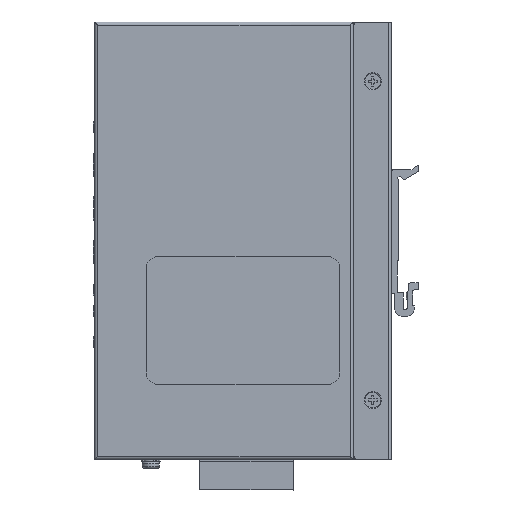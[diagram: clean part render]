
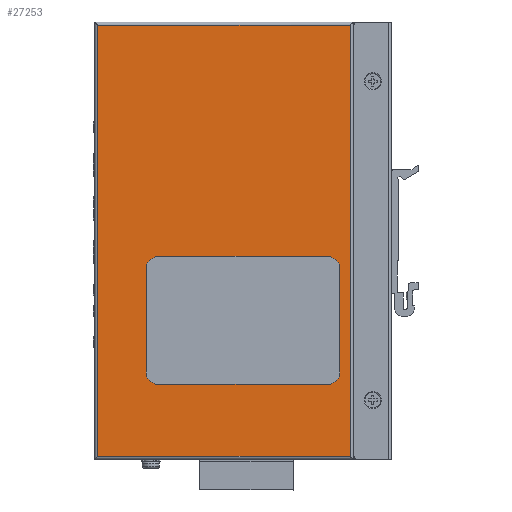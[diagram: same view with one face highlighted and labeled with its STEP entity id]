
A CAD part, front view. The second image highlights one B-rep face of the part: STEP entity #27253.
In plain terms, the highlighted planar face has unit normal (0, -1, 0).
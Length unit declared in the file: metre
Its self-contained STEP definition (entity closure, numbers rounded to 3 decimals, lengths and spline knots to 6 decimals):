
#1753=CIRCLE('',#30143,0.004);
#1754=CIRCLE('',#30144,0.004);
#1755=CIRCLE('',#30145,0.004);
#1756=CIRCLE('',#30146,0.004);
#8730=ORIENTED_EDGE('',*,*,#12598,.T.);
#8731=ORIENTED_EDGE('',*,*,#12603,.T.);
#8732=ORIENTED_EDGE('',*,*,#12608,.T.);
#8733=ORIENTED_EDGE('',*,*,#12881,.T.);
#8734=ORIENTED_EDGE('',*,*,#12914,.F.);
#8735=ORIENTED_EDGE('',*,*,#12915,.F.);
#8736=ORIENTED_EDGE('',*,*,#12916,.F.);
#8737=ORIENTED_EDGE('',*,*,#12917,.F.);
#8738=ORIENTED_EDGE('',*,*,#12918,.F.);
#8739=ORIENTED_EDGE('',*,*,#12919,.F.);
#8740=ORIENTED_EDGE('',*,*,#12920,.F.);
#8741=ORIENTED_EDGE('',*,*,#12921,.F.);
#12598=EDGE_CURVE('',#15334,#15335,#17949,.T.);
#12603=EDGE_CURVE('',#15335,#15338,#17952,.T.);
#12608=EDGE_CURVE('',#15338,#15342,#17955,.T.);
#12881=EDGE_CURVE('',#15342,#15334,#18095,.T.);
#12914=EDGE_CURVE('',#15581,#15582,#18108,.T.);
#12915=EDGE_CURVE('',#15583,#15581,#1753,.T.);
#12916=EDGE_CURVE('',#15584,#15583,#18109,.T.);
#12917=EDGE_CURVE('',#15585,#15584,#1754,.T.);
#12918=EDGE_CURVE('',#15586,#15585,#18110,.T.);
#12919=EDGE_CURVE('',#15587,#15586,#1755,.T.);
#12920=EDGE_CURVE('',#15588,#15587,#18111,.T.);
#12921=EDGE_CURVE('',#15582,#15588,#1756,.T.);
#15334=VERTEX_POINT('',#48766);
#15335=VERTEX_POINT('',#48767);
#15338=VERTEX_POINT('',#48792);
#15342=VERTEX_POINT('',#48817);
#15581=VERTEX_POINT('',#49486);
#15582=VERTEX_POINT('',#49487);
#15583=VERTEX_POINT('',#49489);
#15584=VERTEX_POINT('',#49491);
#15585=VERTEX_POINT('',#49493);
#15586=VERTEX_POINT('',#49495);
#15587=VERTEX_POINT('',#49497);
#15588=VERTEX_POINT('',#49499);
#17949=LINE('',#48765,#20474);
#17952=LINE('',#48791,#20477);
#17955=LINE('',#48818,#20480);
#18095=LINE('',#49411,#20620);
#18108=LINE('',#49485,#20633);
#18109=LINE('',#49490,#20634);
#18110=LINE('',#49494,#20635);
#18111=LINE('',#49498,#20636);
#20474=VECTOR('',#36908,1.);
#20477=VECTOR('',#36913,1.);
#20480=VECTOR('',#36918,1.);
#20620=VECTOR('',#37536,1.);
#20633=VECTOR('',#37623,1.);
#20634=VECTOR('',#37626,1.);
#20635=VECTOR('',#37629,1.);
#20636=VECTOR('',#37632,1.);
#22612=EDGE_LOOP('',(#8730,#8731,#8732,#8733));
#22613=EDGE_LOOP('',(#8734,#8735,#8736,#8737,#8738,#8739,#8740,#8741));
#24686=FACE_BOUND('',#22612,.T.);
#24687=FACE_BOUND('',#22613,.T.);
#25818=PLANE('',#30142);
#27253=ADVANCED_FACE('',(#24686,#24687),#25818,.T.);
#30142=AXIS2_PLACEMENT_3D('',#49484,#37621,#37622);
#30143=AXIS2_PLACEMENT_3D('',#49488,#37624,#37625);
#30144=AXIS2_PLACEMENT_3D('',#49492,#37627,#37628);
#30145=AXIS2_PLACEMENT_3D('',#49496,#37630,#37631);
#30146=AXIS2_PLACEMENT_3D('',#49500,#37633,#37634);
#36908=DIRECTION('',(-1.,0.,0.));
#36913=DIRECTION('',(0.,0.,-1.));
#36918=DIRECTION('',(1.,0.,0.));
#37536=DIRECTION('',(0.,0.,1.));
#37621=DIRECTION('',(0.,-1.,0.));
#37622=DIRECTION('',(0.,0.,-1.));
#37623=DIRECTION('',(0.,0.,1.));
#37624=DIRECTION('',(0.,-1.,0.));
#37625=DIRECTION('',(0.,0.,-1.));
#37626=DIRECTION('',(1.,0.,0.));
#37627=DIRECTION('',(0.,-1.,0.));
#37628=DIRECTION('',(-1.,0.,0.));
#37629=DIRECTION('',(0.,0.,-1.));
#37630=DIRECTION('',(0.,-1.,0.));
#37631=DIRECTION('',(0.,0.,1.));
#37632=DIRECTION('',(-1.,0.,0.));
#37633=DIRECTION('',(0.,-1.,0.));
#37634=DIRECTION('',(1.,0.,0.));
#48765=CARTESIAN_POINT('',(0.0818,0.,0.069));
#48766=CARTESIAN_POINT('',(0.0818,0.,0.069));
#48767=CARTESIAN_POINT('',(0.001,0.,0.069));
#48791=CARTESIAN_POINT('',(0.001,0.,0.069));
#48792=CARTESIAN_POINT('',(0.001,0.,-0.069));
#48817=CARTESIAN_POINT('',(0.0818,0.,-0.069));
#48818=CARTESIAN_POINT('',(0.001,0.,-0.069));
#49411=CARTESIAN_POINT('',(0.0818,0.,-0.069));
#49484=CARTESIAN_POINT('',(0.,0.,-0.07));
#49485=CARTESIAN_POINT('',(0.0785,0.,-0.042));
#49486=CARTESIAN_POINT('',(0.0785,0.,-0.042));
#49487=CARTESIAN_POINT('',(0.0785,0.,-0.009));
#49488=CARTESIAN_POINT('',(0.0745,0.,-0.042));
#49489=CARTESIAN_POINT('',(0.0745,0.,-0.046));
#49490=CARTESIAN_POINT('',(0.0205,0.,-0.046));
#49491=CARTESIAN_POINT('',(0.0205,0.,-0.046));
#49492=CARTESIAN_POINT('',(0.0205,0.,-0.042));
#49493=CARTESIAN_POINT('',(0.0165,0.,-0.042));
#49494=CARTESIAN_POINT('',(0.0165,0.,-0.009));
#49495=CARTESIAN_POINT('',(0.0165,0.,-0.009));
#49496=CARTESIAN_POINT('',(0.0205,0.,-0.009));
#49497=CARTESIAN_POINT('',(0.0205,0.,-0.005));
#49498=CARTESIAN_POINT('',(0.0745,0.,-0.005));
#49499=CARTESIAN_POINT('',(0.0745,0.,-0.005));
#49500=CARTESIAN_POINT('',(0.0745,0.,-0.009));
